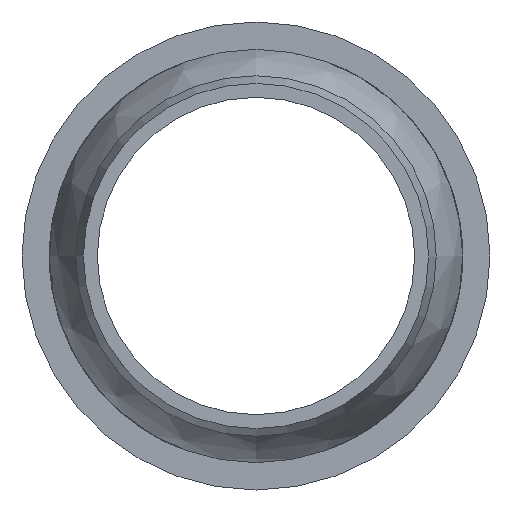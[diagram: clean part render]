
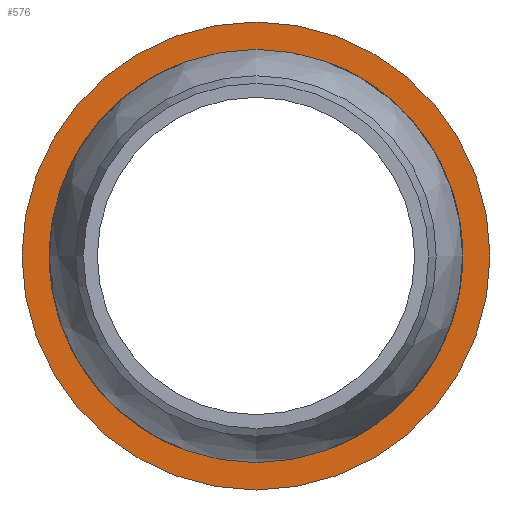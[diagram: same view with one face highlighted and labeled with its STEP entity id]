
A CAD part, left-side view. The second image highlights one B-rep face of the part: STEP entity #576.
In plain terms, the highlighted planar face has unit normal (-1, 0, 0).
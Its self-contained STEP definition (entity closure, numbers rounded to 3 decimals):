
#82=PLANE('',#641);
#113=FACE_BOUND('',#210,.T.);
#149=FACE_OUTER_BOUND('',#209,.T.);
#209=EDGE_LOOP('',(#490));
#210=EDGE_LOOP('',(#491));
#244=CIRCLE('',#640,28.15);
#245=CIRCLE('',#642,32.55);
#301=VERTEX_POINT('',#2075);
#302=VERTEX_POINT('',#2078);
#366=EDGE_CURVE('',#301,#301,#244,.T.);
#367=EDGE_CURVE('',#302,#302,#245,.T.);
#490=ORIENTED_EDGE('',*,*,#367,.F.);
#491=ORIENTED_EDGE('',*,*,#366,.T.);
#576=ADVANCED_FACE('',(#149,#113),#82,.T.);
#640=AXIS2_PLACEMENT_3D('',#2076,#760,#761);
#641=AXIS2_PLACEMENT_3D('',#2077,#762,#763);
#642=AXIS2_PLACEMENT_3D('',#2079,#764,#765);
#760=DIRECTION('center_axis',(1.,0.,0.));
#761=DIRECTION('ref_axis',(0.,0.,
1.));
#762=DIRECTION('center_axis',(-1.,0.,0.));
#763=DIRECTION('ref_axis',(0.,0.,-1.));
#764=DIRECTION('center_axis',(1.,0.,0.));
#765=DIRECTION('ref_axis',(0.,0.,
1.));
#2075=CARTESIAN_POINT('',(157.85,-28.15,0.));
#2076=CARTESIAN_POINT('Origin',(157.85,0.,0.));
#2077=CARTESIAN_POINT('Origin',(157.85,-32.55,0.));
#2078=CARTESIAN_POINT('',(157.85,-32.55,0.));
#2079=CARTESIAN_POINT('Origin',(157.85,0.,0.));
